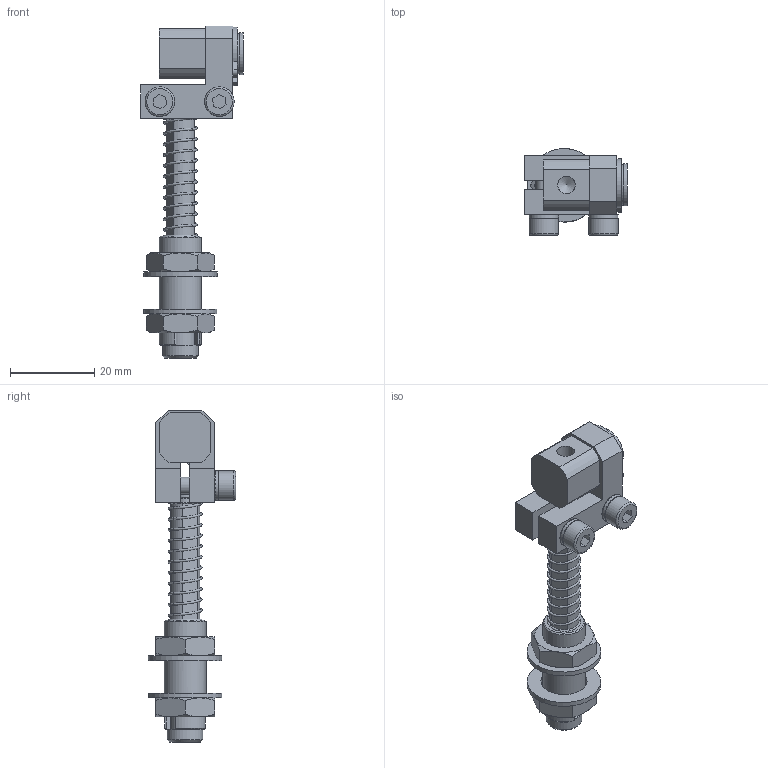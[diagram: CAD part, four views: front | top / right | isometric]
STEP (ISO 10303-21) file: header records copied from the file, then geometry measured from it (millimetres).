
FILE_DESCRIPTION(('STEP AP214'),'1');
FILE_NAME('CA.GGSM100520.6N.stp','2019-02-18T13:18:50',(' '),(' '),'Spatial InterOp 3D',' ',' ');
FILE_SCHEMA(('AUTOMOTIVE_DESIGN { 1 0 10303 214 1 1 1 1 }'));
Length unit declared in the file: millimetre
Products named in the file (11): CA.GGSM100520.6N; A.ELA10; V.TCE4x14; R.4.SCH; M.8x35.6N; R.10.SCH; 05.01.005.05; GGS.01.01; GGS.02.01; 05.01.005.02; 05.01.005.06
Assembly tree (14 placements, depth 2):
  CA.GGSM100520.6N
    A.ELA10
    V.TCE4x14  x2
    R.4.SCH  x2
    M.8x35.6N
    R.10.SCH  x2
    05.01.005.05
    GGS.01.01
    GGS.02.01
    05.01.005.02
    05.01.005.06  x2
Bounding box: 24.5 x 20.75 x 79 mm (x, y, z)
Volume: 8902.5 mm3; surface area: 10405.8 mm2
Topology: 22 solids, 24 shells, 613 faces, 1659 edges, 1093 vertices
Faces by surface type: plane 495, cylinder 52, cone 38, torus 28
Full cylindrical faces by diameter (mm): 1.5 x2, 2.5 x1, 3.3 x2, 4 x2, 4.2 x9, 4.3 x2, 5 x1, 7 x4, 7.1 x1, 8.5 x1, 9 x2, 9.6 x1, 10 x3, 11 x2, 17.5 x2
Entity records: 14700 total; most frequent: CARTESIAN_POINT 2269, DIRECTION 1986, ORIENTED_EDGE 1794, EDGE_CURVE 897, AXIS2_PLACEMENT_3D 732, VERTEX_POINT 625, LINE 522, VECTOR 522
